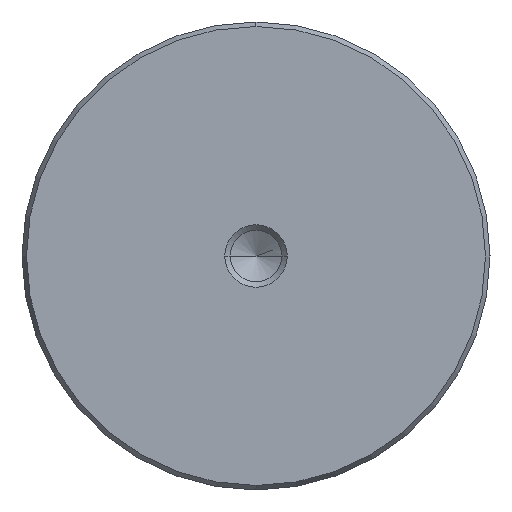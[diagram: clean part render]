
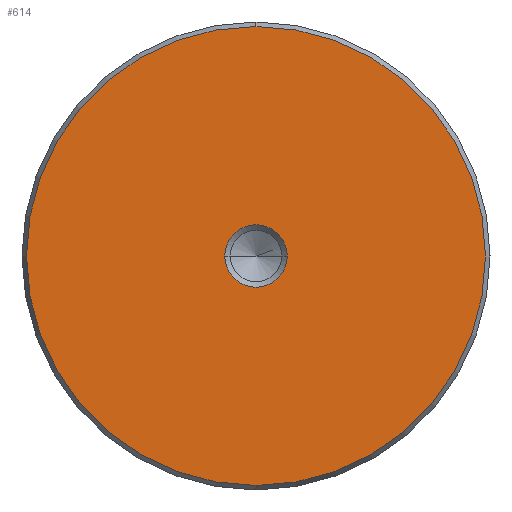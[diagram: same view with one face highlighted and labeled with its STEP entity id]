
A CAD part, left-side view. The second image highlights one B-rep face of the part: STEP entity #614.
In plain terms, the highlighted planar face has unit normal (-1, 0, 0).
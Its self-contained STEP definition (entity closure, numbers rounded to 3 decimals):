
#528=CARTESIAN_POINT('Vertex',(0.,0.,-29.423)) ;
#531=CARTESIAN_POINT('Axis2P3D Location',(0.,0.,0.)) ;
#535=CARTESIAN_POINT('Vertex',(0.,29.423,0.)) ;
#538=CARTESIAN_POINT('Axis2P3D Location',(0.,0.,0.)) ;
#542=CARTESIAN_POINT('Vertex',(0.,0.,29.423)) ;
#564=CARTESIAN_POINT('Axis2P3D Location',(0.,0.,0.)) ;
#568=CARTESIAN_POINT('Vertex',(0.,-29.423,0.)) ;
#571=CARTESIAN_POINT('Axis2P3D Location',(0.,0.,0.)) ;
#585=CARTESIAN_POINT('Axis2P3D Location',(0.,0.,0.)) ;
#596=CARTESIAN_POINT('Axis2P3D Location',(0.,0.,0.)) ;
#600=CARTESIAN_POINT('Vertex',(0.,4.,0.)) ;
#602=CARTESIAN_POINT('Vertex',(0.,-4.,0.)) ;
#605=CARTESIAN_POINT('Axis2P3D Location',(0.,0.,0.)) ;
#532=DIRECTION('Axis2P3D Direction',(1.,0.,-0.)) ;
#539=DIRECTION('Axis2P3D Direction',(1.,0.,-0.)) ;
#565=DIRECTION('Axis2P3D Direction',(1.,0.,-0.)) ;
#572=DIRECTION('Axis2P3D Direction',(1.,0.,-0.)) ;
#586=DIRECTION('Axis2P3D Direction',(1.,0.,-0.)) ;
#587=DIRECTION('Axis2P3D XDirection',(-0.,0.,-1.)) ;
#597=DIRECTION('Axis2P3D Direction',(1.,0.,-0.)) ;
#606=DIRECTION('Axis2P3D Direction',(1.,0.,-0.)) ;
#533=AXIS2_PLACEMENT_3D('Circle Axis2P3D',#531,#532,$) ;
#540=AXIS2_PLACEMENT_3D('Circle Axis2P3D',#538,#539,$) ;
#566=AXIS2_PLACEMENT_3D('Circle Axis2P3D',#564,#565,$) ;
#573=AXIS2_PLACEMENT_3D('Circle Axis2P3D',#571,#572,$) ;
#588=AXIS2_PLACEMENT_3D('Plane Axis2P3D',#585,#586,#587) ;
#598=AXIS2_PLACEMENT_3D('Circle Axis2P3D',#596,#597,$) ;
#607=AXIS2_PLACEMENT_3D('Circle Axis2P3D',#605,#606,$) ;
#591=ORIENTED_EDGE('',*,*,#537,.F.) ;
#592=ORIENTED_EDGE('',*,*,#575,.F.) ;
#593=ORIENTED_EDGE('',*,*,#570,.F.) ;
#594=ORIENTED_EDGE('',*,*,#544,.F.) ;
#611=ORIENTED_EDGE('',*,*,#604,.T.) ;
#612=ORIENTED_EDGE('',*,*,#609,.T.) ;
#613=FACE_BOUND('',#610,.T.) ;
#614=ADVANCED_FACE('720-60x250',(#595,#613),#589,.F.) ;
#534=CIRCLE('generated circle',#533,29.423) ;
#541=CIRCLE('generated circle',#540,29.423) ;
#567=CIRCLE('generated circle',#566,29.423) ;
#574=CIRCLE('generated circle',#573,29.423) ;
#599=CIRCLE('generated circle',#598,4.) ;
#608=CIRCLE('generated circle',#607,4.) ;
#537=EDGE_CURVE('',#529,#536,#534,.T.) ;
#544=EDGE_CURVE('',#536,#543,#541,.T.) ;
#570=EDGE_CURVE('',#543,#569,#567,.T.) ;
#575=EDGE_CURVE('',#569,#529,#574,.T.) ;
#604=EDGE_CURVE('',#601,#603,#599,.T.) ;
#609=EDGE_CURVE('',#603,#601,#608,.T.) ;
#590=EDGE_LOOP('',(#591,#592,#593,#594)) ;
#610=EDGE_LOOP('',(#611,#612)) ;
#595=FACE_OUTER_BOUND('',#590,.T.) ;
#589=PLANE('Plane',#588) ;
#529=VERTEX_POINT('',#528) ;
#536=VERTEX_POINT('',#535) ;
#543=VERTEX_POINT('',#542) ;
#569=VERTEX_POINT('',#568) ;
#601=VERTEX_POINT('',#600) ;
#603=VERTEX_POINT('',#602) ;
